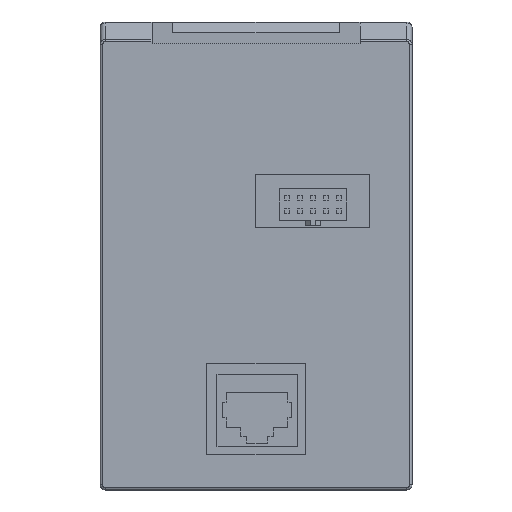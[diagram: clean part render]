
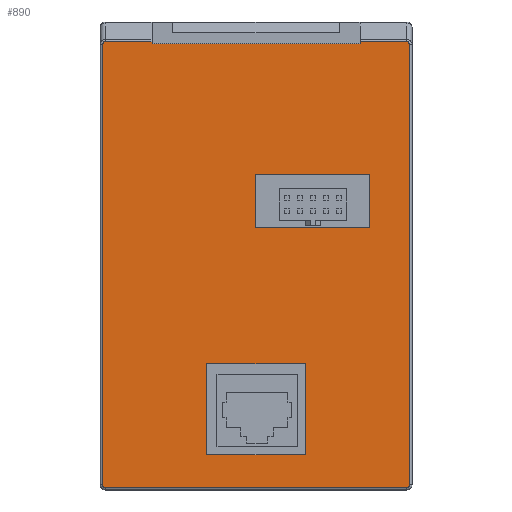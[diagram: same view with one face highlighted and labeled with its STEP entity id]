
A CAD part, left-side view. The second image highlights one B-rep face of the part: STEP entity #890.
In plain terms, the highlighted planar face has unit normal (-1, 0, 0).
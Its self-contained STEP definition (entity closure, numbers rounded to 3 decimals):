
#890=ADVANCED_FACE('',(#2741,#2743,#2745),#2747,.F.);
#2741=FACE_BOUND('',#2742,.T.);
#2742=EDGE_LOOP('',(#4168,#4169,#4170,#4171,#4172,#4173,#4174,#4175,#4176,#4177,
#4178,#4179));
#2743=FACE_BOUND('',#2744,.T.);
#2744=EDGE_LOOP('',(#4180,#4181,#4182,#4183));
#2745=FACE_BOUND('',#2746,.T.);
#2746=EDGE_LOOP('',(#4184,#4185,#4186,#4187));
#2747=PLANE('',#2748);
#2748=AXIS2_PLACEMENT_3D('',#2749,#2750,#2751);
#2749=CARTESIAN_POINT('',(0.,0.,0.));
#2750=DIRECTION('',(1.,0.,0.));
#2751=DIRECTION('',(0.,1.,0.));
#4168=ORIENTED_EDGE('',*,*,#5046,.T.);
#4169=ORIENTED_EDGE('',*,*,#4997,.T.);
#4170=ORIENTED_EDGE('',*,*,#5047,.F.);
#4171=ORIENTED_EDGE('',*,*,#5048,.F.);
#4172=ORIENTED_EDGE('',*,*,#4980,.F.);
#4173=ORIENTED_EDGE('',*,*,#4978,.F.);
#4174=ORIENTED_EDGE('',*,*,#4968,.F.);
#4175=ORIENTED_EDGE('',*,*,#4966,.F.);
#4176=ORIENTED_EDGE('',*,*,#4962,.F.);
#4177=ORIENTED_EDGE('',*,*,#5044,.F.);
#4178=ORIENTED_EDGE('',*,*,#5049,.F.);
#4179=ORIENTED_EDGE('',*,*,#4988,.T.);
#4180=ORIENTED_EDGE('',*,*,#5050,.T.);
#4181=ORIENTED_EDGE('',*,*,#5051,.T.);
#4182=ORIENTED_EDGE('',*,*,#5052,.T.);
#4183=ORIENTED_EDGE('',*,*,#5053,.T.);
#4184=ORIENTED_EDGE('',*,*,#5054,.T.);
#4185=ORIENTED_EDGE('',*,*,#5055,.T.);
#4186=ORIENTED_EDGE('',*,*,#5056,.T.);
#4187=ORIENTED_EDGE('',*,*,#5057,.T.);
#4962=EDGE_CURVE('',#5628,#5630,#5631,.T.);
#4966=EDGE_CURVE('',#5630,#5636,#5637,.F.);
#4968=EDGE_CURVE('',#5636,#5639,#5640,.T.);
#4978=EDGE_CURVE('',#5639,#5654,#5655,.F.);
#4980=EDGE_CURVE('',#5654,#5657,#5658,.T.);
#4988=EDGE_CURVE('',#5670,#5668,#5671,.T.);
#4997=EDGE_CURVE('',#5685,#5683,#5686,.T.);
#5044=EDGE_CURVE('',#5761,#5628,#5762,.F.);
#5046=EDGE_CURVE('',#5668,#5685,#5764,.T.);
#5047=EDGE_CURVE('',#5765,#5683,#5766,.T.);
#5048=EDGE_CURVE('',#5657,#5765,#5767,.T.);
#5049=EDGE_CURVE('',#5670,#5761,#5768,.T.);
#5050=EDGE_CURVE('',#5769,#5770,#5771,.T.);
#5051=EDGE_CURVE('',#5770,#5772,#5773,.T.);
#5052=EDGE_CURVE('',#5772,#5774,#5775,.T.);
#5053=EDGE_CURVE('',#5774,#5769,#5776,.T.);
#5054=EDGE_CURVE('',#5777,#5778,#5779,.T.);
#5055=EDGE_CURVE('',#5778,#5780,#5781,.T.);
#5056=EDGE_CURVE('',#5780,#5782,#5783,.T.);
#5057=EDGE_CURVE('',#5782,#5777,#5784,.T.);
#5628=VERTEX_POINT('',#6912);
#5630=VERTEX_POINT('',#6917);
#5631=LINE('',#6918,#6919);
#5636=VERTEX_POINT('',#6933);
#5637=CIRCLE('',#6934,0.5);
#5639=VERTEX_POINT('',#6942);
#5640=LINE('',#6943,#6944);
#5654=VERTEX_POINT('',#6978);
#5655=CIRCLE('',#6979,0.5);
#5657=VERTEX_POINT('',#6987);
#5658=LINE('',#6988,#6989);
#5668=VERTEX_POINT('',#7016);
#5670=VERTEX_POINT('',#7020);
#5671=LINE('',#7021,#7022);
#5683=VERTEX_POINT('',#7052);
#5685=VERTEX_POINT('',#7057);
#5686=LINE('',#7058,#7059);
#5761=VERTEX_POINT('',#7234);
#5762=(BOUNDED_CURVE()B_SPLINE_CURVE(3,
(#7235,#7236,#7237,#7238),
.UNSPECIFIED.,.F.,.F.)B_SPLINE_CURVE_WITH_KNOTS((4,4),
(0.,1.),
.UNSPECIFIED.)CURVE()GEOMETRIC_REPRESENTATION_ITEM()RATIONAL_B_SPLINE_CURVE((1.,
0.805,0.805,1.))REPRESENTATION_ITEM(''));
#5764=LINE('',#7243,#7244);
#5765=VERTEX_POINT('',#7246);
#5766=LINE('',#7247,#7248);
#5767=(BOUNDED_CURVE()B_SPLINE_CURVE(3,
(#7250,#7251,#7252,#7253),
.UNSPECIFIED.,.F.,.F.)B_SPLINE_CURVE_WITH_KNOTS((4,4),
(0.,1.),
.UNSPECIFIED.)CURVE()GEOMETRIC_REPRESENTATION_ITEM()RATIONAL_B_SPLINE_CURVE((1.,
0.805,0.805,1.))REPRESENTATION_ITEM(''));
#5768=LINE('',#7254,#7255);
#5769=VERTEX_POINT('',#7257);
#5770=VERTEX_POINT('',#7258);
#5771=LINE('',#7259,#7260);
#5772=VERTEX_POINT('',#7262);
#5773=LINE('',#7263,#7264);
#5774=VERTEX_POINT('',#7266);
#5775=LINE('',#7267,#7268);
#5776=LINE('',#7270,#7271);
#5777=VERTEX_POINT('',#7273);
#5778=VERTEX_POINT('',#7274);
#5779=LINE('',#7275,#7276);
#5780=VERTEX_POINT('',#7278);
#5781=LINE('',#7279,#7280);
#5782=VERTEX_POINT('',#7282);
#5783=LINE('',#7283,#7284);
#5784=LINE('',#7286,#7287);
#6912=CARTESIAN_POINT('',(0.,-29.5,40.629));
#6917=CARTESIAN_POINT('',(0.,-29.5,-44.));
#6918=CARTESIAN_POINT('',(0.,-29.5,40.629));
#6919=VECTOR('',#6920,1.);
#6920=DIRECTION('',(0.,0.,-1.));
#6933=CARTESIAN_POINT('',(0.,-29.,-44.5));
#6934=AXIS2_PLACEMENT_3D('',#6935,#6936,#6937);
#6935=CARTESIAN_POINT('',(0.,-29.,-44.));
#6936=DIRECTION('',(-1.,0.,0.));
#6937=DIRECTION('',(0.,0.,-1.));
#6942=CARTESIAN_POINT('',(0.,29.,-44.5));
#6943=CARTESIAN_POINT('',(0.,-29.,-44.5));
#6944=VECTOR('',#6945,1.);
#6945=DIRECTION('',(0.,1.,0.));
#6978=CARTESIAN_POINT('',(0.,29.5,-44.));
#6979=AXIS2_PLACEMENT_3D('',#6980,#6981,#6982);
#6980=CARTESIAN_POINT('',(0.,29.,-44.));
#6981=DIRECTION('',(-1.,0.,0.));
#6982=DIRECTION('',(0.,1.,0.));
#6987=CARTESIAN_POINT('',(0.,29.5,40.629));
#6988=CARTESIAN_POINT('',(0.,29.5,-44.));
#6989=VECTOR('',#6990,1.);
#6990=DIRECTION('',(0.,0.,1.));
#7016=CARTESIAN_POINT('',(0.,-20.,40.8));
#7020=CARTESIAN_POINT('',(0.,-20.,41.24));
#7021=CARTESIAN_POINT('',(0.,-20.,41.24));
#7022=VECTOR('',#7023,1.);
#7023=DIRECTION('',(0.,0.,-1.));
#7052=CARTESIAN_POINT('',(0.,20.,41.24));
#7057=CARTESIAN_POINT('',(0.,20.,40.8));
#7058=CARTESIAN_POINT('',(0.,20.,40.8));
#7059=VECTOR('',#7060,1.);
#7060=DIRECTION('',(0.,0.,1.));
#7234=CARTESIAN_POINT('',(0.,-29.,41.24));
#7235=CARTESIAN_POINT('',(0.,-29.5,40.629));
#7236=CARTESIAN_POINT('',(0.,-29.5,40.987));
#7237=CARTESIAN_POINT('',(0.,-29.293,41.24));
#7238=CARTESIAN_POINT('',(0.,-29.,41.24));
#7243=CARTESIAN_POINT('',(0.,-20.,40.8));
#7244=VECTOR('',#7245,1.);
#7245=DIRECTION('',(0.,1.,0.));
#7246=CARTESIAN_POINT('',(0.,29.,41.24));
#7247=CARTESIAN_POINT('',(0.,29.,41.24));
#7248=VECTOR('',#7249,1.);
#7249=DIRECTION('',(0.,-1.,0.));
#7250=CARTESIAN_POINT('',(0.,29.5,40.629));
#7251=CARTESIAN_POINT('',(0.,29.5,40.987));
#7252=CARTESIAN_POINT('',(0.,29.293,41.24));
#7253=CARTESIAN_POINT('',(0.,29.,41.24));
#7254=CARTESIAN_POINT('',(0.,-20.,41.24));
#7255=VECTOR('',#7256,1.);
#7256=DIRECTION('',(0.,-1.,0.));
#7257=CARTESIAN_POINT('',(0.,9.5,-20.7));
#7258=CARTESIAN_POINT('',(0.,-9.5,-20.7));
#7259=CARTESIAN_POINT('',(0.,9.5,-20.7));
#7260=VECTOR('',#7261,1.);
#7261=DIRECTION('',(0.,-1.,0.));
#7262=CARTESIAN_POINT('',(0.,-9.5,-38.2));
#7263=CARTESIAN_POINT('',(0.,-9.5,-20.7));
#7264=VECTOR('',#7265,1.);
#7265=DIRECTION('',(0.,0.,-1.));
#7266=CARTESIAN_POINT('',(0.,9.5,-38.2));
#7267=CARTESIAN_POINT('',(0.,-9.5,-38.2));
#7268=VECTOR('',#7269,1.);
#7269=DIRECTION('',(0.,1.,0.));
#7270=CARTESIAN_POINT('',(0.,9.5,-38.2));
#7271=VECTOR('',#7272,1.);
#7272=DIRECTION('',(0.,0.,1.));
#7273=CARTESIAN_POINT('',(0.,0.1,15.6));
#7274=CARTESIAN_POINT('',(0.,-21.9,15.6));
#7275=CARTESIAN_POINT('',(0.,0.1,15.6));
#7276=VECTOR('',#7277,1.);
#7277=DIRECTION('',(0.,-1.,0.));
#7278=CARTESIAN_POINT('',(0.,-21.9,5.4));
#7279=CARTESIAN_POINT('',(0.,-21.9,15.6));
#7280=VECTOR('',#7281,1.);
#7281=DIRECTION('',(0.,0.,-1.));
#7282=CARTESIAN_POINT('',(0.,0.1,5.4));
#7283=CARTESIAN_POINT('',(0.,-21.9,5.4));
#7284=VECTOR('',#7285,1.);
#7285=DIRECTION('',(0.,1.,0.));
#7286=CARTESIAN_POINT('',(0.,0.1,5.4));
#7287=VECTOR('',#7288,1.);
#7288=DIRECTION('',(0.,0.,1.));
